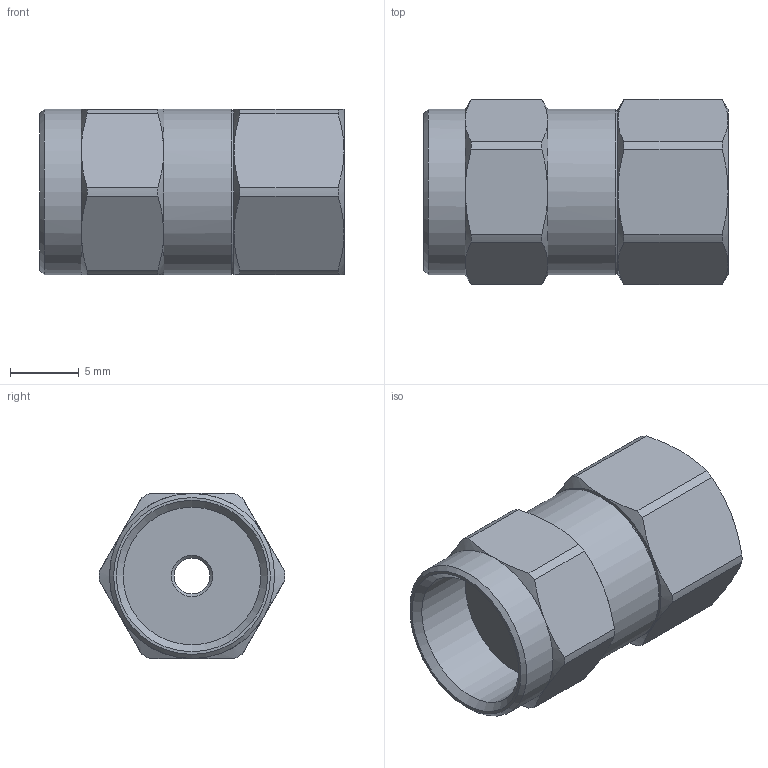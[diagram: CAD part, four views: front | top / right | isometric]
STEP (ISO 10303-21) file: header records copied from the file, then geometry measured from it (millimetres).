
FILE_DESCRIPTION(('STEP AP214'),'1');
FILE_NAME('BVP-10-A31.stp','2026-02-02T07:57:40',(' '),(' '),'Spatial InterOp 3D',' ',' ');
FILE_SCHEMA(('AUTOMOTIVE_DESIGN { 1 0 10303 214 1 1 1 1 }'));
Length unit declared in the file: millimetre
Products named in the file (1): BVP-10-A31
Bounding box: 22.1 x 13.5 x 12 mm (x, y, z)
Volume: 1710.4 mm3; surface area: 1709.3 mm2
Topology: 1 solids, 2 shells, 79 faces, 194 edges, 126 vertices
Faces by surface type: cone 34, plane 23, cylinder 22
Full cylindrical faces by diameter (mm): 2.6 x2, 4.7 x1, 7 x1, 7.75 x1, 8.1 x1, 10 x2, 12 x2
Entity records: 3174 total; most frequent: CARTESIAN_POINT 534, DIRECTION 326, ORIENTED_EDGE 322, EDGE_CURVE 161, AXIS2_PLACEMENT_3D 157, STYLED_ITEM 155, PRESENTATION_STYLE_ASSIGNMENT 155, COLOUR_RGB 155
